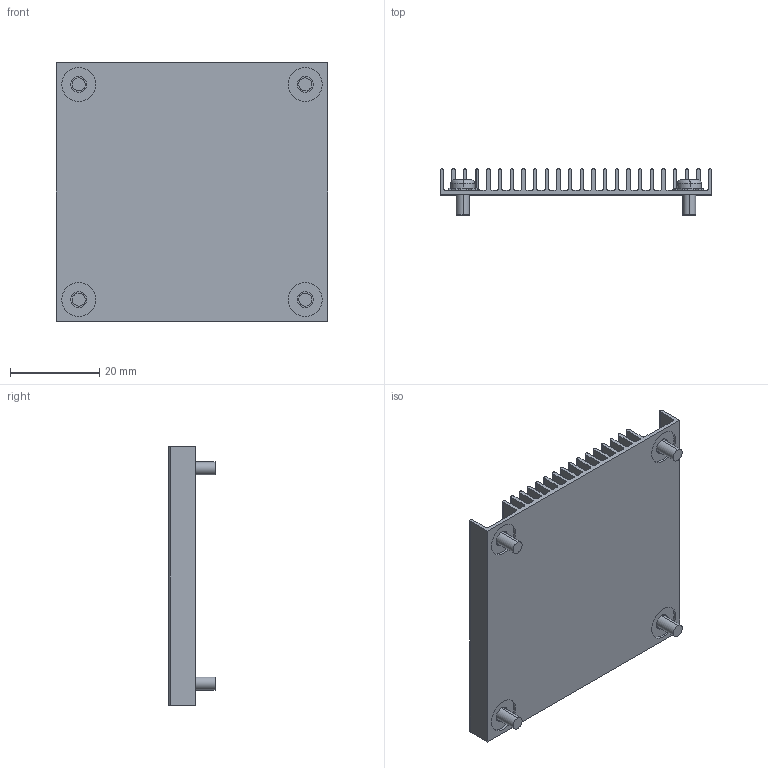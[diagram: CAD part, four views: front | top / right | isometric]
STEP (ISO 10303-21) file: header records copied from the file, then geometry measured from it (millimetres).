
FILE_DESCRIPTION (( 'STEP AP214' ), '1' );
FILE_NAME ('HS1579EBK06.STEP', '2023-03-03T19:00:58', ( '' ), ( '' ), 'SwSTEP 2.0', 'SolidWorks 2020', '' );
FILE_SCHEMA (( 'AUTOMOTIVE_DESIGN' ));
Length unit declared in the file: millimetre
Products named in the file (1): HS1579EBK06
Bounding box: 60.96 x 10.32 x 57.91 mm (x, y, z)
Volume: 8510.2 mm3; surface area: 19690.3 mm2
Topology: 5 solids, 5 shells, 572 faces, 1514 edges, 964 vertices
Faces by surface type: plane 398, cylinder 166, torus 8
Entity records: 24096 total; most frequent: CARTESIAN_POINT 3247, DIRECTION 3048, ORIENTED_EDGE 3028, EDGE_CURVE 1514, VECTOR 1094, LINE 1094, AXIS2_PLACEMENT_3D 977, VERTEX_POINT 964
